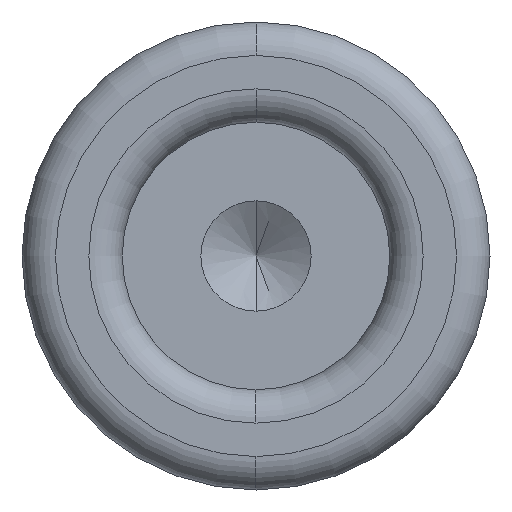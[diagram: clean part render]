
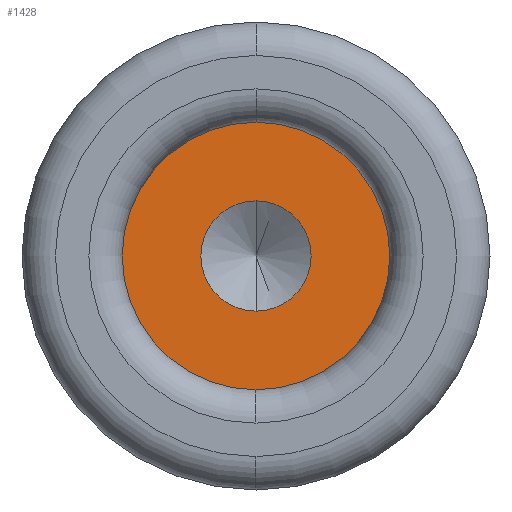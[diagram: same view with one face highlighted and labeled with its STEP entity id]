
A CAD part, left-side view. The second image highlights one B-rep face of the part: STEP entity #1428.
In plain terms, the highlighted planar face has unit normal (-1, 0, 0).
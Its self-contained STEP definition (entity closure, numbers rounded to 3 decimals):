
#76 = DIRECTION ( 'NONE',  ( -1., 0., 0. ) ) ;
#163 = ORIENTED_EDGE ( 'NONE', *, *, #1375, .F. ) ;
#173 = EDGE_LOOP ( 'NONE', ( #742, #982 ) ) ;
#193 = CARTESIAN_POINT ( 'NONE',  ( -50.3, 0., 0. ) ) ;
#196 = AXIS2_PLACEMENT_3D ( 'NONE', #926, #1197, #740 ) ;
#211 = FACE_BOUND ( 'NONE', #1086, .T. ) ;
#340 = EDGE_CURVE ( 'NONE', #1305, #701, #1153, .T. ) ;
#349 = CARTESIAN_POINT ( 'NONE',  ( -50.3, 0., -1.65 ) ) ;
#421 = PLANE ( 'NONE',  #494 ) ;
#452 = CIRCLE ( 'NONE', #1298, 1.65 ) ;
#472 = VERTEX_POINT ( 'NONE', #1248 ) ;
#494 = AXIS2_PLACEMENT_3D ( 'NONE', #193, #543, #1347 ) ;
#501 = CARTESIAN_POINT ( 'NONE',  ( -50.3, 0., 0. ) ) ;
#508 = DIRECTION ( 'NONE',  ( 1., 0., 0. ) ) ;
#543 = DIRECTION ( 'NONE',  ( -1., 0., 0. ) ) ;
#662 = DIRECTION ( 'NONE',  ( 0., 0., -1. ) ) ;
#701 = VERTEX_POINT ( 'NONE', #1426 ) ;
#740 = DIRECTION ( 'NONE',  ( 0., 0., -1. ) ) ;
#742 = ORIENTED_EDGE ( 'NONE', *, *, #340, .F. ) ;
#767 = CARTESIAN_POINT ( 'NONE',  ( -50.3, 0., 0. ) ) ;
#874 = DIRECTION ( 'NONE',  ( 0., 0., 1. ) ) ;
#926 = CARTESIAN_POINT ( 'NONE',  ( -50.3, 0., 0. ) ) ;
#982 = ORIENTED_EDGE ( 'NONE', *, *, #999, .F. ) ;
#993 = VERTEX_POINT ( 'NONE', #349 ) ;
#999 = EDGE_CURVE ( 'NONE', #701, #1305, #1193, .T. ) ;
#1086 = EDGE_LOOP ( 'NONE', ( #163, #1163 ) ) ;
#1105 = DIRECTION ( 'NONE',  ( -1., 0., 0. ) ) ;
#1153 = CIRCLE ( 'NONE', #1322, 4. ) ;
#1163 = ORIENTED_EDGE ( 'NONE', *, *, #1332, .F. ) ;
#1193 = CIRCLE ( 'NONE', #196, 4. ) ;
#1197 = DIRECTION ( 'NONE',  ( 1., 0., 0. ) ) ;
#1216 = AXIS2_PLACEMENT_3D ( 'NONE', #501, #1105, #1217 ) ;
#1217 = DIRECTION ( 'NONE',  ( 0., 0., 1. ) ) ;
#1248 = CARTESIAN_POINT ( 'NONE',  ( -50.3, 0., 1.65 ) ) ;
#1298 = AXIS2_PLACEMENT_3D ( 'NONE', #767, #76, #874 ) ;
#1303 = FACE_OUTER_BOUND ( 'NONE', #173, .T. ) ;
#1305 = VERTEX_POINT ( 'NONE', #1409 ) ;
#1322 = AXIS2_PLACEMENT_3D ( 'NONE', #1463, #508, #662 ) ;
#1332 = EDGE_CURVE ( 'NONE', #993, #472, #1407, .T. ) ;
#1347 = DIRECTION ( 'NONE',  ( 0., 0., 1. ) ) ;
#1375 = EDGE_CURVE ( 'NONE', #472, #993, #452, .T. ) ;
#1407 = CIRCLE ( 'NONE', #1216, 1.65 ) ;
#1409 = CARTESIAN_POINT ( 'NONE',  ( -50.3, 0., -4. ) ) ;
#1426 = CARTESIAN_POINT ( 'NONE',  ( -50.3, 0., 4. ) ) ;
#1428 = ADVANCED_FACE ( 'NONE', ( #211, #1303 ), #421, .T. ) ;
#1463 = CARTESIAN_POINT ( 'NONE',  ( -50.3, 0., 0. ) ) ;
